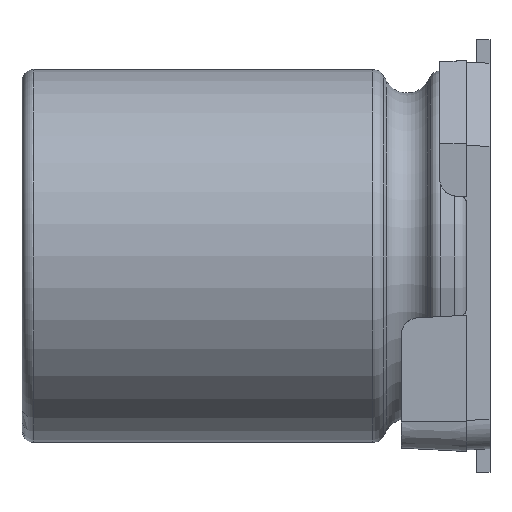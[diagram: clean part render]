
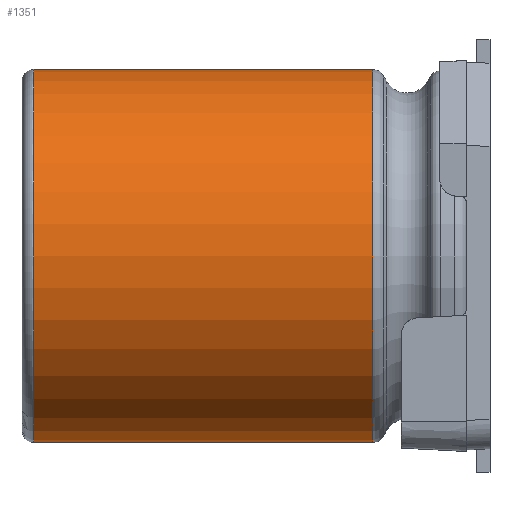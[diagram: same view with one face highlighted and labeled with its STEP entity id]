
A CAD part, left-side view. The second image highlights one B-rep face of the part: STEP entity #1351.
In plain terms, the highlighted cylindrical face has radius 3.15 mm (diameter 6.3 mm), a full revolution.
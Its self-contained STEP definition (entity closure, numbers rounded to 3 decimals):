
#95 = CARTESIAN_POINT ( 'NONE',  ( 0., 7.3, 0. ) ) ;
#217 = VERTEX_POINT ( 'NONE', #582 ) ;
#286 = CIRCLE ( 'NONE', #594, 3.15 ) ;
#512 = DIRECTION ( 'NONE',  ( 0., -1., 0. ) ) ;
#582 = CARTESIAN_POINT ( 'NONE',  ( 0., 7.3, -3.15 ) ) ;
#594 = AXIS2_PLACEMENT_3D ( 'NONE', #2285, #796, #3773 ) ;
#630 = DIRECTION ( 'NONE',  ( 0., 0., -1. ) ) ;
#649 = CYLINDRICAL_SURFACE ( 'NONE', #3332, 3.15 ) ;
#670 = FACE_OUTER_BOUND ( 'NONE', #4461, .T. ) ;
#796 = DIRECTION ( 'NONE',  ( 0., -1., 0. ) ) ;
#1053 = VERTEX_POINT ( 'NONE', #3654 ) ;
#1090 = AXIS2_PLACEMENT_3D ( 'NONE', #95, #512, #4316 ) ;
#1351 = ADVANCED_FACE ( 'NONE', ( #670, #2976 ), #649, .T. ) ;
#1602 = EDGE_LOOP ( 'NONE', ( #3626 ) ) ;
#1914 = CIRCLE ( 'NONE', #1090, 3.15 ) ;
#2285 = CARTESIAN_POINT ( 'NONE',  ( 0., 1.577, 0. ) ) ;
#2922 = CARTESIAN_POINT ( 'NONE',  ( 0., 0., 0. ) ) ;
#2976 = FACE_OUTER_BOUND ( 'NONE', #1602, .T. ) ;
#3332 = AXIS2_PLACEMENT_3D ( 'NONE', #2922, #4884, #630 ) ;
#3558 = EDGE_CURVE ( 'NONE', #1053, #1053, #286, .T. ) ;
#3626 = ORIENTED_EDGE ( 'NONE', *, *, #3558, .F. ) ;
#3654 = CARTESIAN_POINT ( 'NONE',  ( 0., 1.577, -3.15 ) ) ;
#3773 = DIRECTION ( 'NONE',  ( 0., 0., -1. ) ) ;
#4188 = ORIENTED_EDGE ( 'NONE', *, *, #4613, .T. ) ;
#4316 = DIRECTION ( 'NONE',  ( 0., 0., -1. ) ) ;
#4461 = EDGE_LOOP ( 'NONE', ( #4188 ) ) ;
#4613 = EDGE_CURVE ( 'NONE', #217, #217, #1914, .T. ) ;
#4884 = DIRECTION ( 'NONE',  ( 0., -1., 0. ) ) ;
